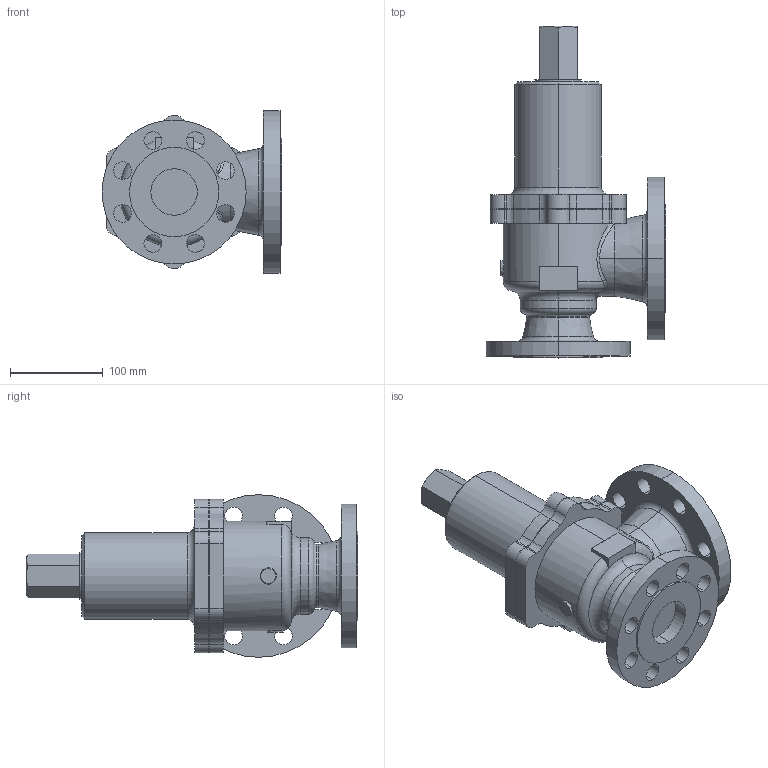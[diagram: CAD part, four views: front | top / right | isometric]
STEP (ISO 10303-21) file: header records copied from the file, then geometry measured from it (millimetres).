
FILE_DESCRIPTION (( 'STEP AP203' ), '1' );
FILE_NAME ('AL-31H 50A JIS20K.STEP', '2026-01-13T07:27:46', ( '' ), ( '' ), 'SwSTEP 2.0', 'SolidWorks 2024', '' );
FILE_SCHEMA (( 'CONFIG_CONTROL_DESIGN' ));
Length unit declared in the file: millimetre
Products named in the file (1): AL-31H 50A JIS20K
Bounding box: 193.5 x 357.3 x 175 mm (x, y, z)
Volume: 3359676.8 mm3; surface area: 250040.5 mm2
Topology: 1 solids, 1 shells, 170 faces, 440 edges, 284 vertices
Faces by surface type: cylinder 106, plane 33, torus 14, cone 12, bspline 5
Entity records: 6666 total; most frequent: CARTESIAN_POINT 2217, DIRECTION 990, ORIENTED_EDGE 880, EDGE_CURVE 440, AXIS2_PLACEMENT_3D 419, VERTEX_POINT 284, CIRCLE 253, EDGE_LOOP 214
